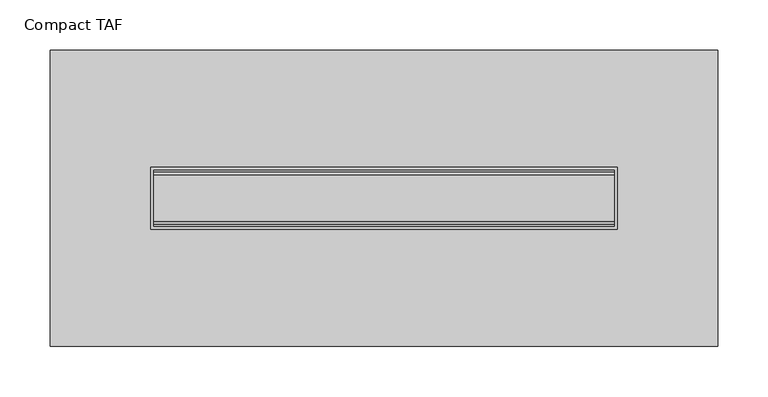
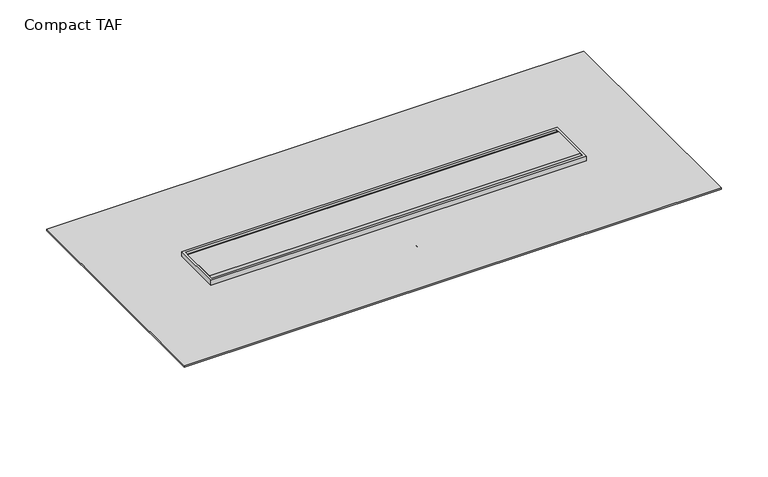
"""IFC4 building model written with IfcOpenShell, lengths in millimetres: sanitary terminal geometry, NLRS_PF_52_UN_Compact TAF_Easydrain : Compact TAF."""

from ifc_helpers import new_model, si_unit, point, frame, frame_2d, origin, place, context, project, spatial, polyline, circle_curve, ellipse_curve, trimmed, segment, composite_curve, outline, extrude, source, transform, mapped, element, save
from ifc_brep_helpers import plane_surface, cylinder_surface, advanced_brep


def compact_taf_a320cd3e(model_context):
    return source(origin(), model_context, "Body", "SolidModel", [
        extrude(outline(composite_curve([segment(polyline([(-23.0, 0.0), (23.0, 0.0)]), True, "CONTINUOUS"), segment(trimmed(circle_curve(frame_2d((23.0, -3.0)), 3.0), [point((23.0, 0.0))], [point((26.0, -3.0))], False, "CARTESIAN"), True, "CONTINUOUS"), segment(polyline([(26.0, -3.0), (26.0, -12.0), (-26.0, -12.0), (-26.0, -3.0)]), True, "CONTINUOUS"), segment(trimmed(circle_curve(frame_2d((-23.0, -3.0)), 3.0), [point((-26.0, -3.0))], [point((-23.0, 0.0))], False, "CARTESIAN"), True, "CONTINUOUS")], self_intersect=False)), frame((-229.5, 0.0, 0.0), z_axis=(1.0, 0.0, 0.0), x_axis=(0.0, 1.0, 0.0)), (0.0, 0.0, 1.0), 459.0),
        extrude(outline(polyline([(332.5, 147.5), (332.5, -147.5), (-332.5, -147.5), (-332.5, 147.5), (332.5, 147.5)]), holes=[polyline([(232.5, 31.0), (-232.5, 31.0), (-232.5, -31.0), (232.5, -31.0), (232.5, 31.0)])]), frame((0.0, 0.0, -8.0), z_axis=(0.0, 0.0, 1.0), x_axis=(1.0, 0.0, 0.0)), (0.0, 0.0, 1.0), 2.0),
        advanced_brep(
        [(-232.5, -31.0, -25.0), (-110.0, -31.0, -27.0), (-110.0, -31.0, -90.0), (110.0, -31.0, -90.0), (110.0, -31.0, -27.0), (232.5, -31.0, -25.0), (232.5, -31.0, -9.0), (-232.5, -31.0, -9.0), (0.0, -31.0, -30.0), (0.0, -31.0, -80.0), (232.5, -31.0, 0.0), (-232.5, -31.0, 0.0), (-232.5, -31.0, -7.0), (232.5, -31.0, -7.0), (-232.5, 31.0, 0.0), (232.5, 31.0, 0.0), (232.5, 31.0, -7.0), (-232.5, 31.0, -7.0), (232.5, 31.0, -25.0), (110.0, 31.0, -27.0), (110.0, 31.0, -90.0), (-110.0, 31.0, -90.0), (-110.0, 31.0, -27.0), (-232.5, 31.0, -25.0), (-232.5, 31.0, -9.0), (232.5, 31.0, -9.0), (-212.5, 0.0, -25.3265306), (-172.5, 0.0, -25.9795918), (232.5, 30.0, -9.0), (232.5, -30.0, -9.0), (232.5, -30.0, -7.0), (232.5, 30.0, -7.0), (-229.5, 28.0, 0.0), (229.5, 28.0, 0.0), (229.5, -28.0, 0.0), (-229.5, -28.0, 0.0), (-232.5, -30.0, -9.0), (-232.5, 30.0, -9.0), (-232.5, 30.0, -7.0), (-232.5, -30.0, -7.0), (172.5, 0.0, -25.9795918), (212.5, 0.0, -25.3265306), (0.0, -50.0, -30.0), (0.0, -50.0, -80.0), (229.5, 28.0, -12.0), (-229.5, 28.0, -12.0), (-229.5, -28.0, -12.0), (229.5, -28.0, -12.0), (250.0, 47.5, -7.0), (-250.0, 47.5, -7.0), (-250.0, -64.5, -7.0), (250.0, -64.5, -7.0), (250.0, 47.5, -9.0), (250.0, -64.5, -9.0), (-250.0, -64.5, -9.0), (-250.0, 47.5, -9.0), (-212.5, 0.0, -90.0), (-172.5, 0.0, -90.0), (172.5, 0.0, -90.0), (212.5, 0.0, -90.0)],
        [
            (0, 1),
            (1, 2),
            (2, 3),
            (3, 4),
            (4, 5),
            (5, 6),
            (6, 7),
            (7, 0),
            (8, 9, circle_curve(frame((0.0, -31.0, -55.0), z_axis=(0.0, 1.0, 0.0), x_axis=(0.0, 0.0, -1.0)), 25.0)),
            (9, 8, circle_curve(frame((0.0, -31.0, -55.0), z_axis=(0.0, 1.0, 0.0), x_axis=(0.0, 0.0, -1.0)), 25.0)),
            (10, 11),
            (11, 12),
            (12, 13),
            (13, 10),
            (14, 15),
            (15, 16),
            (16, 17),
            (17, 14),
            (18, 19),
            (19, 20),
            (20, 21),
            (21, 22),
            (22, 23),
            (23, 24),
            (24, 25),
            (25, 18),
            (0, 23),
            (22, 1),
            (26, 27, ellipse_curve(frame((-192.5, 0.0, -25.6530612), z_axis=(0.01632435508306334, 0.0, 0.9998667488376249), x_axis=(-0.9998667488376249, 0.0, 0.01632435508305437)), 20.0026654, 20.0)),
            (27, 26, ellipse_curve(frame((-192.5, 0.0, -25.6530612), z_axis=(0.01632435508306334, 0.0, 0.9998667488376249), x_axis=(-0.9998667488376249, 0.0, 0.01632435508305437)), 20.0026654, 20.0)),
            (5, 18),
            (25, 28),
            (28, 29),
            (29, 6),
            (15, 10),
            (13, 30),
            (30, 31),
            (31, 16),
            (14, 11),
            (32, 33),
            (33, 34),
            (34, 35),
            (35, 32),
            (7, 36),
            (36, 37),
            (37, 24),
            (17, 38),
            (38, 39),
            (39, 12),
            (21, 2),
            (20, 3),
            (19, 4),
            (40, 41, ellipse_curve(frame((192.5, 0.0, -25.6530612), z_axis=(-0.016324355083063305, 0.0, 0.9998667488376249), x_axis=(0.9998667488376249, 0.0, 0.016324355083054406)), 20.0026654, 20.0)),
            (41, 40, ellipse_curve(frame((192.5, 0.0, -25.6530612), z_axis=(-0.016324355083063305, 0.0, 0.9998667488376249), x_axis=(0.9998667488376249, 0.0, 0.016324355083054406)), 20.0026654, 20.0)),
            (42, 43, circle_curve(frame((0.0, -50.0, -55.0), z_axis=(0.0, -1.0, 0.0), x_axis=(0.0, 0.0, -1.0)), 25.0)),
            (43, 42, circle_curve(frame((0.0, -50.0, -55.0), z_axis=(0.0, -1.0, 0.0), x_axis=(0.0, 0.0, -1.0)), 25.0)),
            (43, 9),
            (8, 42),
            (44, 45),
            (45, 46),
            (46, 47),
            (47, 44),
            (44, 33),
            (32, 45),
            (35, 46),
            (34, 47),
            (48, 49),
            (49, 50),
            (50, 51),
            (51, 48),
            (52, 53),
            (53, 54),
            (54, 55),
            (55, 52),
            (48, 52),
            (55, 49),
            (54, 50),
            (53, 51),
            (56, 57, circle_curve(frame((-192.5, 0.0, -90.0), z_axis=(0.0, 0.0, -1.0), x_axis=(1.0, 0.0, 0.0)), 20.0)),
            (57, 56, circle_curve(frame((-192.5, 0.0, -90.0), z_axis=(0.0, 0.0, -1.0), x_axis=(1.0, 0.0, 0.0)), 20.0)),
            (58, 59, circle_curve(frame((192.5, 0.0, -90.0), z_axis=(0.0, 0.0, -1.0), x_axis=(1.0, 0.0, 0.0)), 20.0)),
            (59, 58, circle_curve(frame((192.5, 0.0, -90.0), z_axis=(0.0, 0.0, -1.0), x_axis=(1.0, 0.0, 0.0)), 20.0)),
            (57, 27),
            (26, 56),
            (59, 41),
            (40, 58),
        ],
        [
            plane_surface(frame((-232.5, -31.0, -25.0), z_axis=(0.0, -1.0000000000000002, 0.0), x_axis=(0.9998667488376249, 0.0, -0.01632435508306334))),
            plane_surface(frame((-232.5, 31.0, -25.0), z_axis=(0.0, 1.0000000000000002, 0.0), x_axis=(-0.9998667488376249, 0.0, 0.01632435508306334))),
            plane_surface(frame((-232.5, -31.0, -25.0), z_axis=(-0.01632435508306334, 0.0, -0.9998667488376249), x_axis=(0.0, 1.0, 0.0))),
            plane_surface(frame((232.5, -31.0, -25.0), z_axis=(1.0, 0.0, 0.0), x_axis=(0.0, 1.0, 0.0))),
            plane_surface(frame((232.5, -31.0, 0.0), z_axis=(0.0, 0.0, 1.0), x_axis=(0.0, 1.0, 0.0))),
            plane_surface(frame((-232.5, -31.0, 0.0), z_axis=(-1.0, 0.0, 0.0), x_axis=(0.0, 1.0, 0.0))),
            plane_surface(frame((-110.0, -31.0, -27.0), z_axis=(-1.0, 0.0, 0.0), x_axis=(0.0, 1.0, 0.0))),
            plane_surface(frame((-110.0, -31.0, -90.0), z_axis=(0.0, 0.0, -1.0), x_axis=(0.0, 1.0, 0.0))),
            plane_surface(frame((110.0, -31.0, -90.0), z_axis=(1.0, 0.0, 0.0), x_axis=(0.0, 1.0, 0.0))),
            plane_surface(frame((110.0, -31.0, -27.0), z_axis=(0.016324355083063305, 0.0, -0.9998667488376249), x_axis=(0.0, 1.0, 0.0))),
            plane_surface(frame((0.0, -50.0, -55.0), z_axis=(0.0, -1.0, 0.0), x_axis=(1.0, 0.0, 0.0))),
            cylinder_surface(frame((0.0, 0.0, -55.0), z_axis=(0.0, 1.0, 0.0), x_axis=(0.0, 0.0, -1.0)), 25.0),
            plane_surface(frame((-229.5, 28.0, -12.0), z_axis=(0.0, 0.0, 1.0), x_axis=(1.0, 0.0, 0.0))),
            plane_surface(frame((229.5, 28.0, 25.5943996), z_axis=(0.0, -1.0, 0.0), x_axis=(0.0, 0.0, -1.0))),
            plane_surface(frame((-229.5, 28.0, 25.5943996), z_axis=(1.0, 0.0, 0.0), x_axis=(0.0, 0.0, -1.0))),
            plane_surface(frame((-229.5, -28.0, 25.5943996), z_axis=(0.0, 1.0, 0.0), x_axis=(0.0, 0.0, -1.0))),
            plane_surface(frame((229.5, -28.0, 25.5943996), z_axis=(-1.0, 0.0, 0.0), x_axis=(0.0, 0.0, -1.0))),
            plane_surface(frame((232.5, 30.0, -7.0), z_axis=(0.0, 0.0, 1.0), x_axis=(0.0, -1.0, 0.0))),
            plane_surface(frame((232.5, 30.0, -9.0), z_axis=(0.0, 0.0, -1.0), x_axis=(0.0, 1.0, 0.0))),
            plane_surface(frame((250.0, 47.5, -7.0), z_axis=(0.0, 1.0, 0.0), x_axis=(0.0, 0.0, -1.0))),
            plane_surface(frame((-250.0, 47.5, -7.0), z_axis=(-1.0, 0.0, 0.0), x_axis=(0.0, 0.0, -1.0))),
            plane_surface(frame((-250.0, -64.5, -7.0), z_axis=(0.0, -1.0, 0.0), x_axis=(0.0, 0.0, -1.0))),
            plane_surface(frame((250.0, -64.5, -7.0), z_axis=(1.0, 0.0, 0.0), x_axis=(0.0, 0.0, -1.0))),
            plane_surface(frame((-172.5, 0.0, -90.0), z_axis=(0.0, 0.0, -1.0), x_axis=(0.0, -1.0, 0.0))),
            cylinder_surface(frame((-192.5, 0.0, -90.0), z_axis=(0.0, 0.0, 1.0), x_axis=(1.0, 0.0, 0.0)), 20.0),
            cylinder_surface(frame((192.5, 0.0, 0.0), z_axis=(0.0, 0.0, 1.0), x_axis=(1.0, 0.0, 0.0)), 20.0),
        ],
        [
            (0, [[1, 2, 3, 4, 5, 6, 7, 8], [9, 10]]),
            (0, [[11, 12, 13, 14]]),
            (1, [[15, 16, 17, 18]]),
            (1, [[19, 20, 21, 22, 23, 24, 25, 26]]),
            (2, [[-1, 27, -23, 28], [29, 30]]),
            (3, [[31, -26, 32, 33, 34, -6]]),
            (3, [[35, -14, 36, 37, 38, -16]]),
            (4, [[-11, -35, -15, 39], [40, 41, 42, 43]]),
            (5, [[-27, -8, 44, 45, 46, -24]]),
            (5, [[-39, -18, 47, 48, 49, -12]]),
            (6, [[-2, -28, -22, 50]]),
            (7, [[-3, -50, -21, 51]]),
            (8, [[-4, -51, -20, 52]]),
            (9, [[-5, -52, -19, -31], [53, 54]]),
            (10, [[55, 56]]),
            (11, [[-56, 57, -9, 58]]),
            (11, [[-55, -58, -10, -57]]),
            (12, [[59, 60, 61, 62]]),
            (13, [[-59, 63, -40, 64]]),
            (14, [[-60, -64, -43, 65]]),
            (15, [[-61, -65, -42, 66]]),
            (16, [[-62, -66, -41, -63]]),
            (17, [[67, 68, 69, 70], [-13, -49, -48, -47, -17, -38, -37, -36]]),
            (18, [[71, 72, 73, 74], [-7, -34, -33, -32, -25, -46, -45, -44]]),
            (19, [[-67, 75, -74, 76]]),
            (20, [[-68, -76, -73, 77]]),
            (21, [[-69, -77, -72, 78]]),
            (22, [[-70, -78, -71, -75]]),
            (23, [[79, 80]]),
            (23, [[81, 82]]),
            (24, [[-80, 83, -29, 84]]),
            (24, [[-79, -84, -30, -83]]),
            (25, [[-82, 85, -53, 86]]),
            (25, [[-81, -86, -54, -85]]),
        ],
    ),
    ])


if __name__ == "__main__":
    model = new_model("IFC4")
    model_context = context("Model", 3, world=origin())
    ifc_project = project(units=[si_unit("LENGTHUNIT", "METRE", prefix="MILLI")], contexts=[model_context])
    site = spatial("IfcSite", under=ifc_project)
    building = spatial("IfcBuilding", under=site)
    placement = place(None, origin())
    compact_taf_shape = compact_taf_a320cd3e(model_context)
    element("IfcSanitaryTerminal", 1, ObjectType="NLRS_PF_52_UN_Compact TAF_Easydrain : Compact TAF", at=placement, inside=building, context=model_context, shape_type="MappedRepresentation", body=[
        mapped(compact_taf_shape, transform((0.0, 0.0, 0.0), x_axis=(1.0, 0.0, 0.0), y_axis=(0.0, 1.0, 0.0), z_axis=(0.0, 0.0, 1.0))),
    ])
    save(model, "model.ifc")
